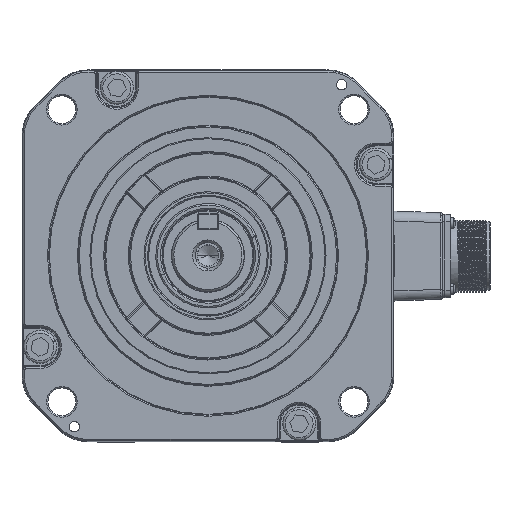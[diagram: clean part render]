
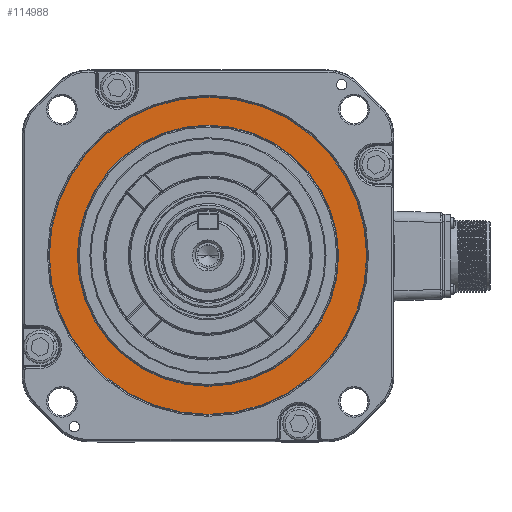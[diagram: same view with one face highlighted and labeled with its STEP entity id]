
A CAD part, top view. The second image highlights one B-rep face of the part: STEP entity #114988.
In plain terms, the highlighted planar face has unit normal (0, 0, 1).
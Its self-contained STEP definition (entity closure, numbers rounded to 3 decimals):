
#4021 = CARTESIAN_POINT ( 'NONE',  ( 0., 77., -3.7 ) ) ;
#4787 = EDGE_LOOP ( 'NONE', ( #109103, #94338 ) ) ;
#9232 = EDGE_CURVE ( 'NONE', #88091, #105310, #101217, .T. ) ;
#16957 = DIRECTION ( 'NONE',  ( 0., 0., 1. ) ) ;
#19709 = CARTESIAN_POINT ( 'NONE',  ( 63.207, 0., -3.7 ) ) ;
#19857 = EDGE_CURVE ( 'NONE', #85566, #63846, #22772, .T. ) ;
#21918 = DIRECTION ( 'NONE',  ( -1., 0., 0. ) ) ;
#22772 = CIRCLE ( 'NONE', #28588, 76.793 ) ;
#22782 = EDGE_CURVE ( 'NONE', #63846, #85566, #29647, .T. ) ;
#27769 = CARTESIAN_POINT ( 'NONE',  ( 0., 0., -3.7 ) ) ;
#28588 = AXIS2_PLACEMENT_3D ( 'NONE', #70916, #81828, #21918 ) ;
#29647 = CIRCLE ( 'NONE', #97504, 76.793 ) ;
#32853 = CIRCLE ( 'NONE', #58078, 63.207 ) ;
#35154 = ORIENTED_EDGE ( 'NONE', *, *, #22782, .T. ) ;
#47758 = CARTESIAN_POINT ( 'NONE',  ( 0., 0., -3.7 ) ) ;
#54368 = ORIENTED_EDGE ( 'NONE', *, *, #19857, .T. ) ;
#58078 = AXIS2_PLACEMENT_3D ( 'NONE', #47758, #111528, #101816 ) ;
#58667 = DIRECTION ( 'NONE',  ( 0., 0., -1. ) ) ;
#63463 = CARTESIAN_POINT ( 'NONE',  ( -76.793, 0., -3.7 ) ) ;
#63661 = CARTESIAN_POINT ( 'NONE',  ( -63.207, 0., -3.7 ) ) ;
#63846 = VERTEX_POINT ( 'NONE', #113585 ) ;
#65996 = DIRECTION ( 'NONE',  ( 0., 0., -1. ) ) ;
#70916 = CARTESIAN_POINT ( 'NONE',  ( 0., 0., -3.7 ) ) ;
#72172 = AXIS2_PLACEMENT_3D ( 'NONE', #27769, #65996, #103026 ) ;
#78117 = FACE_BOUND ( 'NONE', #4787, .T. ) ;
#80990 = EDGE_CURVE ( 'NONE', #105310, #88091, #32853, .T. ) ;
#81828 = DIRECTION ( 'NONE',  ( 0., 0., 1. ) ) ;
#84007 = AXIS2_PLACEMENT_3D ( 'NONE', #4021, #58667, #96314 ) ;
#85429 = FACE_OUTER_BOUND ( 'NONE', #114907, .T. ) ;
#85566 = VERTEX_POINT ( 'NONE', #63463 ) ;
#86853 = CARTESIAN_POINT ( 'NONE',  ( 0., 0., -3.7 ) ) ;
#88091 = VERTEX_POINT ( 'NONE', #19709 ) ;
#94338 = ORIENTED_EDGE ( 'NONE', *, *, #9232, .T. ) ;
#96314 = DIRECTION ( 'NONE',  ( -1., 0., 0. ) ) ;
#97504 = AXIS2_PLACEMENT_3D ( 'NONE', #86853, #16957, #106878 ) ;
#97520 = PLANE ( 'NONE',  #84007 ) ;
#101217 = CIRCLE ( 'NONE', #72172, 63.207 ) ;
#101816 = DIRECTION ( 'NONE',  ( -1., 0., 0. ) ) ;
#103026 = DIRECTION ( 'NONE',  ( -1., 0., 0. ) ) ;
#105310 = VERTEX_POINT ( 'NONE', #63661 ) ;
#106878 = DIRECTION ( 'NONE',  ( -1., 0., 0. ) ) ;
#109103 = ORIENTED_EDGE ( 'NONE', *, *, #80990, .T. ) ;
#111528 = DIRECTION ( 'NONE',  ( 0., 0., -1. ) ) ;
#113585 = CARTESIAN_POINT ( 'NONE',  ( 76.793, 0., -3.7 ) ) ;
#114907 = EDGE_LOOP ( 'NONE', ( #54368, #35154 ) ) ;
#114988 = ADVANCED_FACE ( 'NONE', ( #85429, #78117 ), #97520, .F. ) ;
